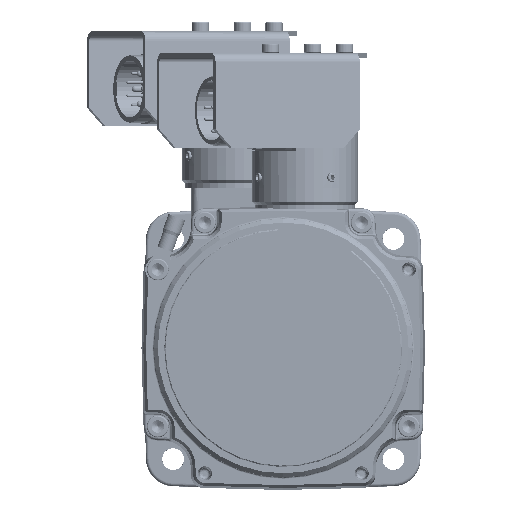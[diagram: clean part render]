
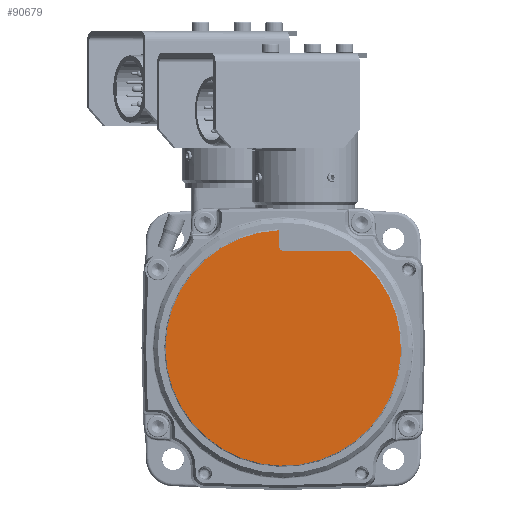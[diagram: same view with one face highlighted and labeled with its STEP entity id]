
A CAD part, top view. The second image highlights one B-rep face of the part: STEP entity #90679.
In plain terms, the highlighted planar face has unit normal (0, 0, 1).
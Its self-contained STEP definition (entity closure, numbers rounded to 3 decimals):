
#84480=CARTESIAN_POINT('',(-1.5,37.77,60.3));
#84482=CARTESIAN_POINT('',(0.,0.,60.3));
#84483=DIRECTION('',(0.,0.,-1.));
#84484=DIRECTION('',(0.572,0.82,0.));
#84485=AXIS2_PLACEMENT_3D('',#84482,#84483,#84484);
#84508=CARTESIAN_POINT('',(0.5,33.,60.3));
#84509=DIRECTION('',(0.,0.,-1.));
#84510=DIRECTION('',(0.,-1.,0.));
#84511=AXIS2_PLACEMENT_3D('',#84508,#84509,#84510);
#84530=DIRECTION('',(0.,-1.,0.));
#84531=VECTOR('',#84530,4.77);
#84532=CARTESIAN_POINT('',(-1.5,37.77,60.3));
#84533=LINE('',#84532,#84531);
#84534=DIRECTION('',(1.,0.,0.));
#84535=VECTOR('',#84534,21.13);
#84536=CARTESIAN_POINT('',(0.5,31.,60.3));
#84537=LINE('',#84536,#84535);
#85955=CARTESIAN_POINT('',(0.5,31.,60.3));
#85957=VERTEX_POINT('',#85955);
#85959=CARTESIAN_POINT('',(-1.5,33.,60.3));
#85961=VERTEX_POINT('',#85959);
#85975=VERTEX_POINT('',#84480);
#85976=CARTESIAN_POINT('',(21.63,31.,60.3));
#85977=VERTEX_POINT('',#85976);
#90668=CARTESIAN_POINT('',(0.,0.,60.3));
#90669=DIRECTION('',(0.,0.,1.));
#90670=DIRECTION('',(1.,0.,0.));
#90671=AXIS2_PLACEMENT_3D('',#90668,#90669,#90670);
#90672=PLANE('',#90671);
#90673=ORIENTED_EDGE('',*,*,#90616,.T.);
#90674=ORIENTED_EDGE('',*,*,#90634,.T.);
#90675=ORIENTED_EDGE('',*,*,#90646,.F.);
#90676=ORIENTED_EDGE('',*,*,#90659,.T.);
#90677=EDGE_LOOP('',(#90673,#90674,#90675,#90676));
#90678=FACE_OUTER_BOUND('',#90677,.F.);
#90679=ADVANCED_FACE('',(#90678),#90672,.T.);
#84486=CIRCLE('',#84485,37.8);
#84512=CIRCLE('',#84511,2.);
#90616=EDGE_CURVE('',#85977,#85975,#84486,.T.);
#90634=EDGE_CURVE('',#85975,#85961,#84533,.T.);
#90646=EDGE_CURVE('',#85957,#85961,#84512,.T.);
#90659=EDGE_CURVE('',#85957,#85977,#84537,.T.);
